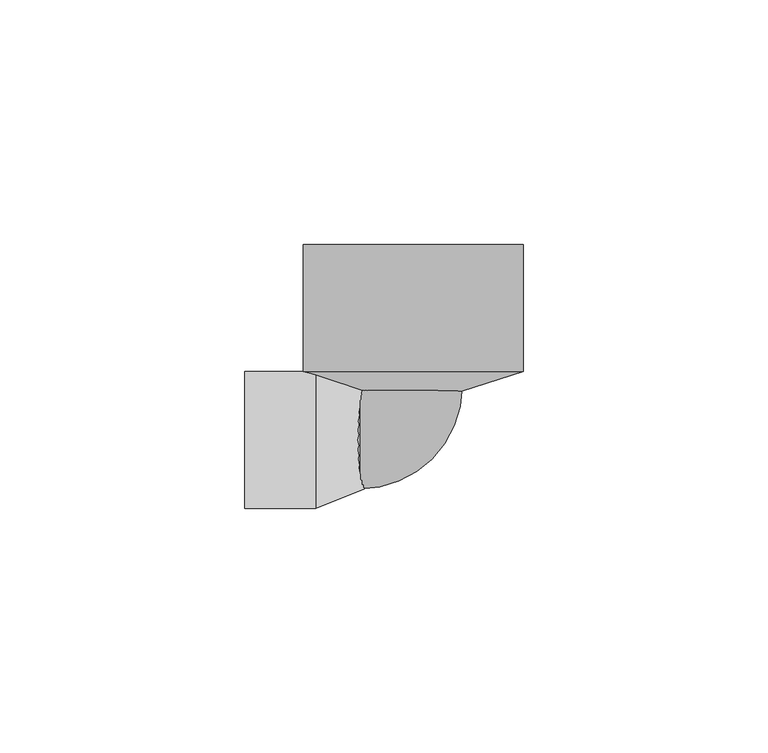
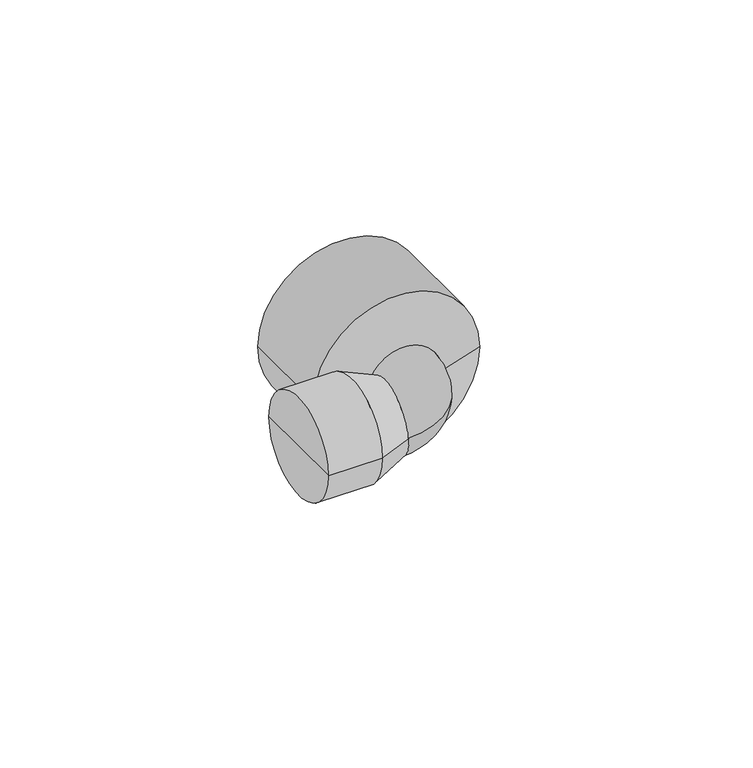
"""IFC4 building model written with IfcOpenShell, lengths in millimetres: pipe fitting geometry, KAN-therm PP kolano gw 3_4 : KAN-therm PP kolano gw 3_4."""

from ifc_helpers import new_model, si_unit, point, frame, origin, place, context, project, spatial, polyline, circle_curve, ellipse_curve, trimmed, source, transform, mapped, element, save
from ifc_brep_helpers import plane_surface, cylinder_surface, revolved_surface, advanced_brep


def pipe_fitting_d33e2bb3(model_context):
    return source(origin(), model_context, "Body", "AdvancedBrep", [
        advanced_brep(
        [(-10.0, 27.0, 0.0), (10.0, 27.0, 0.0), (-10.0, 11.0, 0.0), (10.0, 11.0, 0.0), (-20.0, 10.0, 0.0), (-20.0, -10.0, 0.0), (-11.0, -10.0, 0.0), (-11.0, 10.0, 0.0)],
        [
            (0, 1, circle_curve(frame((0.0, 27.0, 0.0), z_axis=(0.0, 1.0, 0.0), x_axis=(1.0, 0.0, 0.0)), 10.0)),
            (1, 0, circle_curve(frame((0.0, 27.0, 0.0), z_axis=(0.0, 1.0, 0.0), x_axis=(1.0, 0.0, 0.0)), 10.0)),
            (0, 2),
            (2, 3, circle_curve(frame((0.0, 11.0, 0.0), z_axis=(0.0, 1.0, 0.0), x_axis=(1.0, 0.0, 0.0)), 10.0)),
            (3, 1),
            (3, 2, circle_curve(frame((0.0, 11.0, 0.0), z_axis=(0.0, 1.0, 0.0), x_axis=(1.0, 0.0, 0.0)), 10.0)),
            (4, 5, circle_curve(frame((-20.0, 0.0, 0.0), z_axis=(-1.0, 0.0, 0.0), x_axis=(0.0, -1.0, 0.0)), 10.0)),
            (5, 4, circle_curve(frame((-20.0, 0.0, 0.0), z_axis=(-1.0, 0.0, 0.0), x_axis=(0.0, -1.0, 0.0)), 10.0)),
            (6, 7, circle_curve(frame((-11.0, 0.0, 0.0), z_axis=(-1.0, 0.0, 0.0), x_axis=(0.0, -1.0, 0.0)), 10.0)),
            (7, 4),
            (5, 6),
            (7, 6, circle_curve(frame((-11.0, 0.0, 0.0), z_axis=(-1.0, 0.0, 0.0), x_axis=(0.0, -1.0, 0.0)), 10.0)),
            (6, 3, circle_curve(frame((-11.0, 11.0, 0.0), z_axis=(0.0, 0.0, 1.0), x_axis=(1.0, 0.0, 0.0)), 21.0)),
            (2, 7, circle_curve(frame((-11.0, 11.0, 0.0), z_axis=(0.0, 0.0, -1.0), x_axis=(1.0, 0.0, 0.0)), 1.0)),
        ],
        [
            plane_surface(frame((0.0, 27.0, 0.0), z_axis=(0.0, 1.0, 0.0), x_axis=(0.0, 0.0, 1.0))),
            cylinder_surface(frame((0.0, 27.0, 0.0), z_axis=(0.0, 1.0, 0.0), x_axis=(1.0, 0.0, 0.0)), 10.0),
            plane_surface(frame((-20.0, 0.0, 0.0), z_axis=(-1.0, 0.0, 0.0), x_axis=(0.0, 0.0, 1.0))),
            cylinder_surface(frame((-11.0, 0.0, 0.0), z_axis=(1.0, 0.0, 0.0), x_axis=(0.0, -1.0, 0.0)), 10.0),
            revolved_surface(trimmed(ellipse_curve(frame((0.0, 11.0, 0.0), z_axis=(0.0, 1.0, 0.0), x_axis=(1.0, 0.0, 0.0)), 10.0, 10.0), [point((-10.0, 11.0, 0.0))], [point((10.0, 11.0, 0.0))], True, "CARTESIAN"), (-11.0, 11.0, 0.0), (0.0, 0.0, -1.0)),
            revolved_surface(trimmed(ellipse_curve(frame((0.0, 11.0, 0.0), z_axis=(0.0, 1.0, 0.0), x_axis=(1.0, 0.0, 0.0)), 10.0, 10.0), [point((10.0, 11.0, 0.0))], [point((-10.0, 11.0, 0.0))], True, "CARTESIAN"), (-11.0, 11.0, 0.0), (0.0, 0.0, -1.0)),
        ],
        [
            (0, [[1, 2]]),
            (1, [[-1, 3, 4, 5]]),
            (1, [[-2, -5, 6, -3]]),
            (2, [[7, 8]]),
            (3, [[9, 10, -8, 11]]),
            (3, [[12, -11, -7, -10]]),
            (4, [[13, -4, 14, -9]]),
            (5, [[-14, -6, -13, -12]]),
        ],
    ),
        advanced_brep(
        [(0.0, 40.0, 0.0), (22.5, 40.0, 0.0), (-22.5, 40.0, 0.0), (-10.0, 10.0, 0.0), (10.0, 10.0, 0.0), (0.0, 10.0, 0.0), (22.5, 14.0, 0.0), (-22.5, 14.0, 0.0)],
        [
            (0, 1),
            (1, 2, circle_curve(frame((0.0, 40.0, 0.0), z_axis=(0.0, 1.0, 0.0), x_axis=(1.0, 0.0, 0.0)), 22.5)),
            (2, 0),
            (2, 1, circle_curve(frame((0.0, 40.0, 0.0), z_axis=(0.0, 1.0, 0.0), x_axis=(1.0, 0.0, 0.0)), 22.5)),
            (3, 4, circle_curve(frame((0.0, 10.0, 0.0), z_axis=(0.0, -1.0, 0.0), x_axis=(1.0, 0.0, 0.0)), 10.0)),
            (4, 5),
            (5, 3),
            (4, 3, circle_curve(frame((0.0, 10.0, 0.0), z_axis=(0.0, -1.0, 0.0), x_axis=(1.0, 0.0, 0.0)), 10.0)),
            (1, 6),
            (6, 7, circle_curve(frame((0.0, 14.0, 0.0), z_axis=(0.0, 1.0, 0.0), x_axis=(1.0, 0.0, 0.0)), 22.5)),
            (7, 2),
            (7, 6, circle_curve(frame((0.0, 14.0, 0.0), z_axis=(0.0, 1.0, 0.0), x_axis=(1.0, 0.0, 0.0)), 22.5)),
            (6, 4),
            (3, 7),
        ],
        [
            plane_surface(frame((0.0, 40.0, 0.0), z_axis=(0.0, 1.0, 0.0), x_axis=(1.0, 0.0, 0.0))),
            plane_surface(frame((0.0, 10.0, 0.0), z_axis=(0.0, -1.0, 0.0), x_axis=(1.0, 0.0, 0.0))),
            cylinder_surface(frame((0.0, 2003.0, 0.0), z_axis=(0.0, 1.0, 0.0), x_axis=(1.0, 0.0, 0.0)), 22.5),
            revolved_surface(polyline([(10.0, 10.0, 0.0), (22.5, 14.0, 0.0)]), (0.0, 2003.0, 0.0), (0.0, 1.0, 0.0)),
        ],
        [
            (0, [[1, 2, 3]]),
            (0, [[-3, 4, -1]]),
            (1, [[5, 6, 7]]),
            (1, [[8, -7, -6]]),
            (2, [[-2, 9, 10, 11]]),
            (2, [[-4, -11, 12, -9]]),
            (3, [[-10, 13, -5, 14]]),
            (3, [[-12, -14, -8, -13]]),
        ],
    ),
        advanced_brep(
        [(-20.0, 14.0, 0.0), (-20.0, -14.0, 0.0), (-34.5, -14.0, 0.0), (-34.5, 14.0, 0.0), (-10.0, 0.0, 0.0), (-10.0, -10.0, 0.0), (-10.0, 10.0, 0.0), (-34.5, 0.0, 0.0)],
        [
            (0, 1, circle_curve(frame((-20.0, 0.0, 0.0), z_axis=(-1.0, 0.0, 0.0), x_axis=(0.0, -1.0, 0.0)), 14.0)),
            (1, 2),
            (2, 3, circle_curve(frame((-34.5, 0.0, 0.0), z_axis=(1.0, 0.0, 0.0), x_axis=(0.0, -1.0, 0.0)), 14.0)),
            (3, 0),
            (1, 0, circle_curve(frame((-20.0, 0.0, 0.0), z_axis=(-1.0, 0.0, 0.0), x_axis=(0.0, -1.0, 0.0)), 14.0)),
            (3, 2, circle_curve(frame((-34.5, 0.0, 0.0), z_axis=(1.0, 0.0, 0.0), x_axis=(0.0, -1.0, 0.0)), 14.0)),
            (4, 5),
            (5, 6, circle_curve(frame((-10.0, 0.0, 0.0), z_axis=(1.0, 0.0, 0.0), x_axis=(0.0, -1.0, 0.0)), 10.0)),
            (6, 4),
            (6, 5, circle_curve(frame((-10.0, 0.0, 0.0), z_axis=(1.0, 0.0, 0.0), x_axis=(0.0, -1.0, 0.0)), 10.0)),
            (2, 7),
            (7, 3),
            (5, 1),
            (0, 6),
        ],
        [
            cylinder_surface(frame((2003.0, 0.0, 0.0), z_axis=(1.0, 0.0, 0.0), x_axis=(0.0, -1.0, 0.0)), 14.0),
            plane_surface(frame((-10.0, 0.0, 0.0), z_axis=(1.0, 0.0, 0.0), x_axis=(0.0, -1.0, 0.0))),
            plane_surface(frame((-34.5, 0.0, 0.0), z_axis=(-1.0, 0.0, 0.0), x_axis=(0.0, -1.0, 0.0))),
            revolved_surface(polyline([(-20.0, -14.0, 0.0), (-10.0, -10.0, 0.0)]), (2003.0, 0.0, 0.0), (1.0, 0.0, 0.0)),
        ],
        [
            (0, [[1, 2, 3, 4]]),
            (0, [[5, -4, 6, -2]]),
            (1, [[7, 8, 9]]),
            (1, [[-9, 10, -7]]),
            (2, [[-3, 11, 12]]),
            (2, [[-6, -12, -11]]),
            (3, [[-8, 13, -1, 14]]),
            (3, [[-10, -14, -5, -13]]),
        ],
    ),
    ])


if __name__ == "__main__":
    model = new_model("IFC4")
    model_context = context("Model", 3, world=origin())
    ifc_project = project(units=[si_unit("LENGTHUNIT", "METRE", prefix="MILLI")], contexts=[model_context])
    site = spatial("IfcSite", under=ifc_project)
    building = spatial("IfcBuilding", under=site)
    placement = place(None, origin())
    pipe_fitting_shape = pipe_fitting_d33e2bb3(model_context)
    element("IfcPipeFitting", 1, ObjectType="KAN-therm PP kolano gw 3_4 : KAN-therm PP kolano gw 3_4", at=placement, inside=building, context=model_context, shape_type="MappedRepresentation", body=[
        mapped(pipe_fitting_shape, transform((0.0, 0.0, 0.0), x_axis=(1.0, 0.0, 0.0), y_axis=(0.0, 1.0, 0.0), z_axis=(0.0, 0.0, 1.0))),
    ])
    save(model, "model.ifc")
